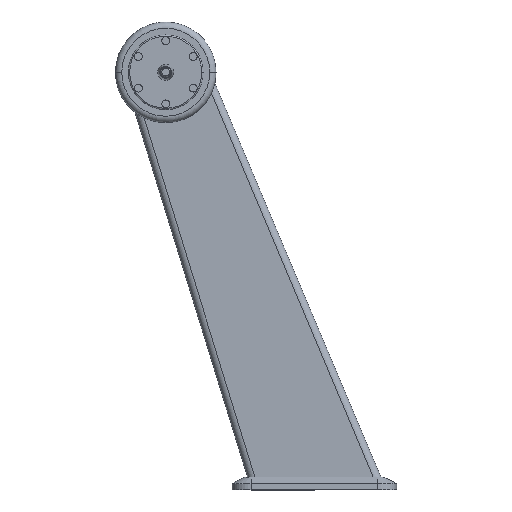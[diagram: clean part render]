
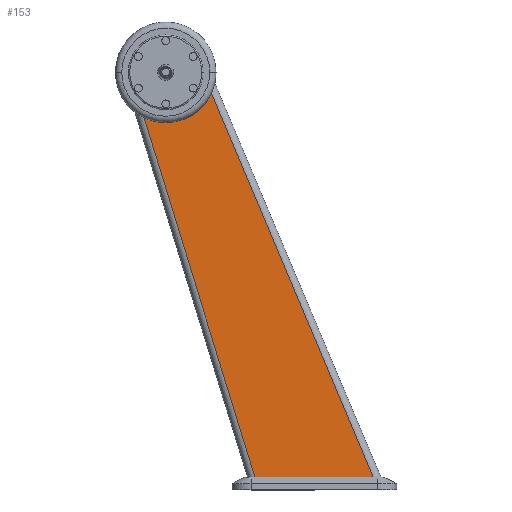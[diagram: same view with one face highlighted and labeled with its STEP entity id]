
A CAD part, top view. The second image highlights one B-rep face of the part: STEP entity #153.
In plain terms, the highlighted planar face has unit normal (0, 0, 1).
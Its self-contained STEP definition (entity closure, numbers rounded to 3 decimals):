
#153 = ADVANCED_FACE ( 'NONE', ( #1016 ), #365, .F. ) ;
#229 = EDGE_CURVE ( 'NONE', #1667, #2218, #959, .T. ) ;
#251 = VECTOR ( 'NONE', #1927, 1000. ) ;
#365 = PLANE ( 'NONE',  #1138 ) ;
#445 = DIRECTION ( 'NONE',  ( 0., 0., 1. ) ) ;
#609 = CARTESIAN_POINT ( 'NONE',  ( -290.789, 641.012, 31.25 ) ) ;
#628 = CARTESIAN_POINT ( 'NONE',  ( -301.3, 637.769, 31.25 ) ) ;
#721 = LINE ( 'NONE', #1240, #251 ) ;
#752 = LINE ( 'NONE', #609, #2109 ) ;
#812 = DIRECTION ( 'NONE',  ( -1., 0., 0. ) ) ;
#945 = EDGE_CURVE ( 'NONE', #1667, #2224, #752, .T. ) ;
#951 = LINE ( 'NONE', #1328, #1423 ) ;
#959 = CIRCLE ( 'NONE', #2061, 79.5 ) ;
#974 = ORIENTED_EDGE ( 'NONE', *, *, #229, .F. ) ;
#984 = DIRECTION ( 'NONE',  ( 0.295, -0.956, 0. ) ) ;
#1002 = ORIENTED_EDGE ( 'NONE', *, *, #945, .T. ) ;
#1016 = FACE_OUTER_BOUND ( 'NONE', #1669, .T. ) ;
#1018 = CARTESIAN_POINT ( 'NONE',  ( -167.845, 627.106, 31.25 ) ) ;
#1138 = AXIS2_PLACEMENT_3D ( 'NONE', #628, #2031, #812 ) ;
#1200 = CARTESIAN_POINT ( 'NONE',  ( -99.181, 20., 31.25 ) ) ;
#1240 = CARTESIAN_POINT ( 'NONE',  ( -191.79, 683.922, 31.25 ) ) ;
#1293 = CARTESIAN_POINT ( 'NONE',  ( 88.018, 20., 31.25 ) ) ;
#1328 = CARTESIAN_POINT ( 'NONE',  ( -301.3, 20., 31.25 ) ) ;
#1342 = VERTEX_POINT ( 'NONE', #1293 ) ;
#1423 = VECTOR ( 'NONE', #1854, 1000. ) ;
#1515 = CARTESIAN_POINT ( 'NONE',  ( -240.22, 660., 31.25 ) ) ;
#1667 = VERTEX_POINT ( 'NONE', #2293 ) ;
#1669 = EDGE_LOOP ( 'NONE', ( #1900, #1962, #974, #1002 ) ) ;
#1693 = DIRECTION ( 'NONE',  ( -1., 0., 0. ) ) ;
#1705 = EDGE_CURVE ( 'NONE', #1342, #2218, #721, .T. ) ;
#1854 = DIRECTION ( 'NONE',  ( -1., 0., 0. ) ) ;
#1900 = ORIENTED_EDGE ( 'NONE', *, *, #2078, .F. ) ;
#1927 = DIRECTION ( 'NONE',  ( -0.388, 0.922, 0. ) ) ;
#1962 = ORIENTED_EDGE ( 'NONE', *, *, #1705, .T. ) ;
#2031 = DIRECTION ( 'NONE',  ( 0., 0., -1. ) ) ;
#2061 = AXIS2_PLACEMENT_3D ( 'NONE', #1515, #445, #1693 ) ;
#2078 = EDGE_CURVE ( 'NONE', #1342, #2224, #951, .T. ) ;
#2109 = VECTOR ( 'NONE', #984, 1000. ) ;
#2218 = VERTEX_POINT ( 'NONE', #1018 ) ;
#2224 = VERTEX_POINT ( 'NONE', #1200 ) ;
#2293 = CARTESIAN_POINT ( 'NONE',  ( -274.519, 588.279, 31.25 ) ) ;
